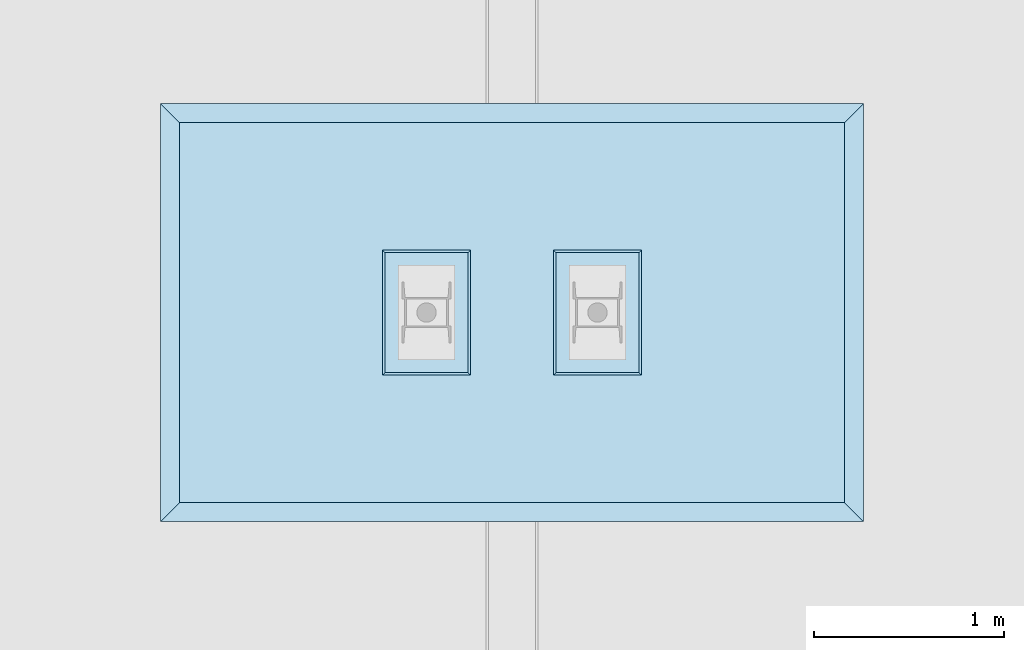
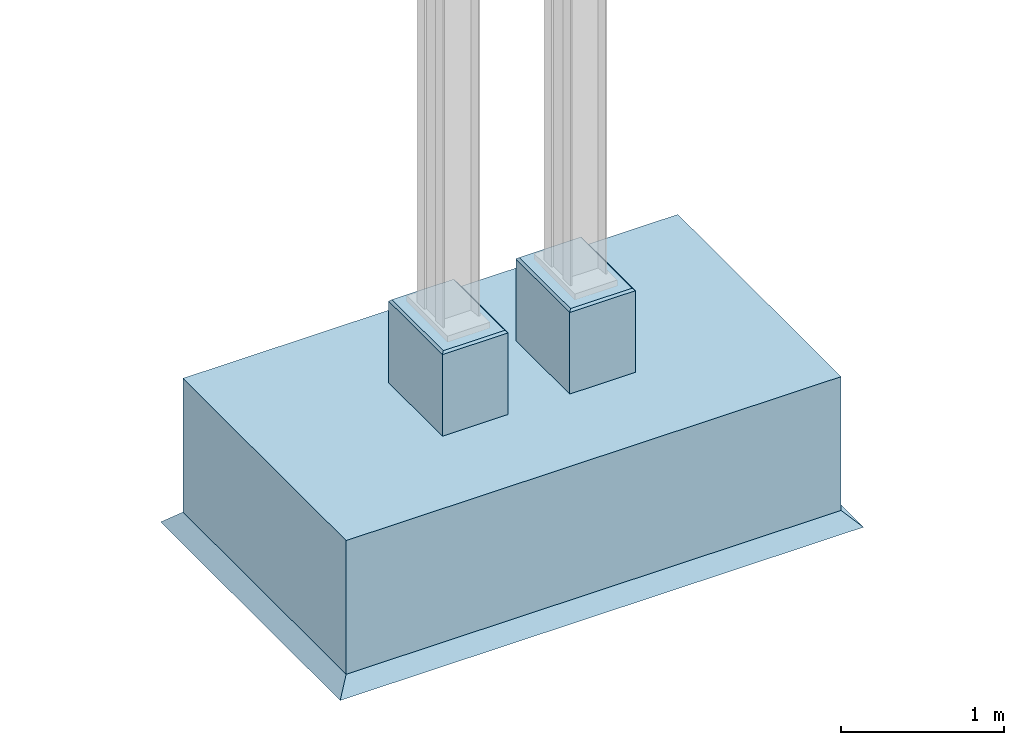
# One storey, incomplete: 1 slab.
"""IFC4 building model written with IfcOpenShell, lengths in metres."""

from ifc_helpers import new_model, entity, si_unit, converted_unit, direction, origin, place, context, subcontext, project, spatial, polygons, material, type_object, element, save


model = new_model("IFC4")

# Units and contexts
model_context = context("Model", 3, precision=1e-05, world=origin(), true_north=direction((6.123031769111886e-17, 1.0)))
body_context = subcontext(model_context, "Body", "Model", "MODEL_VIEW")
ifc_project = project(units=[si_unit("LENGTHUNIT", "METRE"), converted_unit("PLANEANGLEUNIT", "DEGREE", entity("IfcPlaneAngleMeasure", 0.017453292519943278), si_unit("PLANEANGLEUNIT", "RADIAN"), dimensions=[0, 0, 0, 0, 0, 0, 0])], contexts=[model_context])

# Site, building, storey
site_placement = place(None, origin())
site = spatial("IfcSite", under=ifc_project, at=site_placement, Name="Default", CompositionType="ELEMENT")
building_placement = place(site_placement, origin())
building = spatial("IfcBuilding", under=site, at=building_placement, CompositionType="ELEMENT")
storey_placement = place(building_placement, origin())
storey = spatial("IfcBuildingStorey", under=building, at=storey_placement, Name="DB_Bezugshoehe_max_Bahnsteigkante", CompositionType="ELEMENT", Elevation=0.0)

# Slab
ifc_material = material(Name="DB_Ortbeton", Category="DB_Beton")
slab_type = type_object("IfcSlabType", Name="DB_Systemdach_Fundament_Typ1:Variante2", PredefinedType="BASESLAB", material=ifc_material)
slab_placement = place(storey_placement, origin())
element("IfcSlab", 1, at=slab_placement, inside=storey, type_object=slab_type, Name="DB_Systemdach_Fundament_Typ1:Variante2", ObjectType="DB_Systemdach_Fundament_Typ1:Variante2", PredefinedType="BASESLAB", context=body_context, shape_type="Tessellation", body=[
    polygons([(1.7500000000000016, 1.000000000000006, -0.30000000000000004), (-1.7499999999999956, 1.000000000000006, -0.30000000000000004), (-1.7499999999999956, -0.9999999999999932, -0.30000000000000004), (1.7500000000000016, -0.9999999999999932, -0.30000000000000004), (1.7500000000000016, 1.000000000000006, -1.2999999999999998), (1.7500000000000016, -0.9999999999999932, -1.2999999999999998), (-1.7499999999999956, -0.9999999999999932, -1.2999999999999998), (-1.7499999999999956, 1.000000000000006, -1.2999999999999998)], [[[1, 2, 3, 4]], [[5, 6, 7, 8]], [[2, 1, 5, 8]], [[3, 2, 8, 7]], [[4, 3, 7, 6]], [[1, 4, 6, 5]]], closed=True),
    polygons([(1.7500000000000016, 1.000000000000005, -1.2999999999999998), (-1.7499999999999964, 1.000000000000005, -1.2999999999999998), (-1.7499999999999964, -0.9999999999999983, -1.2999999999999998), (1.7500000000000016, -0.9999999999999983, -1.2999999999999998), (1.8500000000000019, 1.100000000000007, -1.4), (1.8500000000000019, -1.1000000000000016, -1.4), (-1.8500000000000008, -1.1000000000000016, -1.4), (-1.8500000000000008, 1.100000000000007, -1.4)], [[[1, 2, 3, 4]], [[5, 6, 7, 8]], [[5, 8, 2, 1]], [[8, 7, 3, 2]], [[7, 6, 4, 3]], [[6, 5, 1, 4]]], closed=True),
    polygons([(0.682499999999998, 0.32999999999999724, 0.3100000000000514), (0.2174999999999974, 0.32999999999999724, 0.3100000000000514), (0.2174999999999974, -0.32999999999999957, 0.3100000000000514), (0.682499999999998, -0.32999999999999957, 0.3100000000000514), (0.682499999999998, 0.32999999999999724, -0.29999999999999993), (0.2174999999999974, 0.32999999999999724, -0.29999999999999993), (0.2174999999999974, -0.32999999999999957, -0.29999999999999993), (0.682499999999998, -0.32999999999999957, -0.29999999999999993)], [[[1, 2, 3, 4]], [[2, 1, 5, 6]], [[3, 2, 6, 7]], [[4, 3, 7, 8]], [[1, 4, 8, 5]], [[5, 8, 7, 6]]], closed=True),
    polygons([(-0.2175000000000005, 0.32999999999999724, -0.29999999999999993), (-0.2175000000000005, -0.32999999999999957, -0.29999999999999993), (-0.6825000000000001, -0.32999999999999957, -0.29999999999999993), (-0.6825000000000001, 0.32999999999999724, -0.29999999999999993), (-0.6825000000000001, 0.32999999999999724, 0.3100000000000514), (-0.2175000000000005, 0.32999999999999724, 0.3100000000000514), (-0.6825000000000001, -0.32999999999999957, 0.3100000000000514), (-0.2175000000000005, -0.32999999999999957, 0.3100000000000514)], [[[1, 2, 3, 4]], [[5, 6, 1, 4]], [[7, 5, 4, 3]], [[8, 7, 3, 2]], [[6, 8, 2, 1]], [[6, 5, 7, 8]]], closed=True),
    polygons([(0.23249999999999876, 0.31499999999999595, 0.32499999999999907), (0.2324999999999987, -0.31499999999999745, 0.32499999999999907), (0.6674999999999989, -0.31499999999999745, 0.32499999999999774), (0.6674999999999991, 0.31499999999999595, 0.32499999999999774), (0.21749999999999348, 0.32999999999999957, 0.3100000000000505), (0.6824999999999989, 0.3299999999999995, 0.3100000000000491), (0.682499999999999, -0.32999999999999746, 0.3100000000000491), (0.21749999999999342, -0.32999999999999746, 0.3100000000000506)], [[[1, 2, 3, 4]], [[5, 6, 7, 8]], [[6, 5, 1, 4]], [[7, 6, 4, 3]], [[8, 7, 3, 2]], [[5, 8, 2, 1]]], closed=True),
    polygons([(-0.6675000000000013, 0.31499999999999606, 0.325000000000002), (-0.6675000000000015, -0.3149999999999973, 0.32500000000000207), (-0.2325000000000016, -0.3149999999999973, 0.3250000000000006), (-0.23250000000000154, 0.31499999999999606, 0.3250000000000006), (-0.6825000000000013, 0.3299999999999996, 0.3100000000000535), (-0.21750000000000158, 0.3299999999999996, 0.310000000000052), (-0.21750000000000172, -0.32999999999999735, 0.310000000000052), (-0.6825000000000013, -0.32999999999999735, 0.31000000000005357)], [[[1, 2, 3, 4]], [[5, 6, 7, 8]], [[6, 5, 1, 4]], [[7, 6, 4, 3]], [[8, 7, 3, 2]], [[5, 8, 2, 1]]], closed=True),
])

save(model, "model.ifc")
